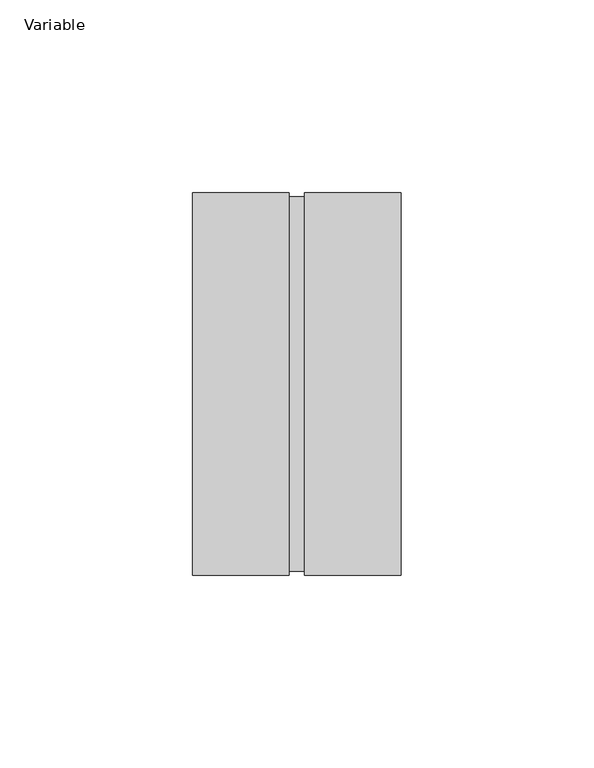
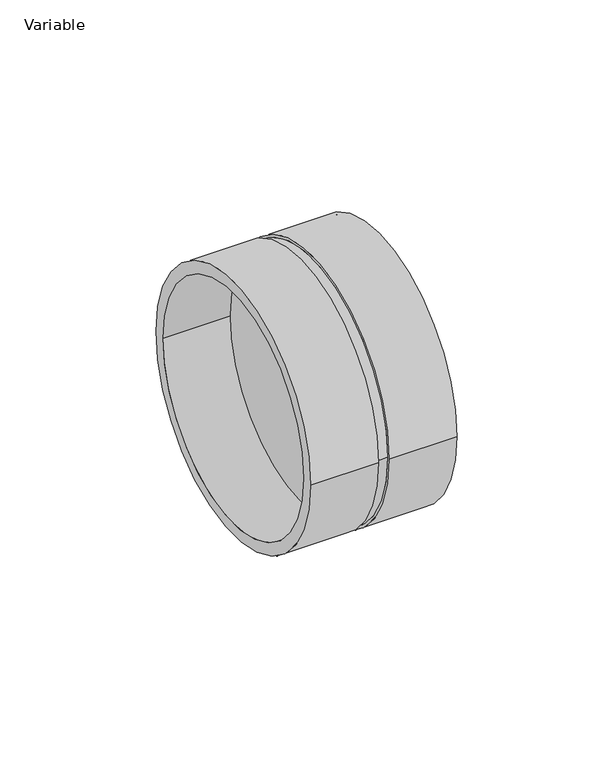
"""IFC4 building model written with IfcOpenShell, lengths in millimetres: pipe fitting geometry, AliaxisFR_Friaphon_RepairCoupling_FR : Variable."""

from ifc_helpers import new_model, si_unit, point, frame, origin, origin_2d, place, context, project, spatial, circle_curve, trimmed, segment, composite_curve, outline, extrude, source, transform, mapped, element, save


def variable_cb47ea54(model_context):
    return source(origin(), model_context, "Body", "SweptSolid", [
        extrude(outline(composite_curve([segment(trimmed(circle_curve(origin_2d(), 49.5), [point((-49.5, 0.0))], [point((49.5, 0.0))], False, "CARTESIAN"), True, "CONTINUOUS"), segment(trimmed(circle_curve(origin_2d(), 49.5), [point((49.5, 0.0))], [point((-49.5, 0.0))], False, "CARTESIAN"), True, "CONTINUOUS")], self_intersect=False), holes=[composite_curve([segment(trimmed(circle_curve(origin_2d(), 48.5), [point((-48.5, 0.0))], [point((48.5, 0.0))], True, "CARTESIAN"), True, "CONTINUOUS"), segment(trimmed(circle_curve(origin_2d(), 48.5), [point((48.5, 0.0))], [point((-48.5, 0.0))], True, "CARTESIAN"), True, "CONTINUOUS")], self_intersect=False)]), frame((29.0, 0.0, 0.0), z_axis=(1.0, 0.0, 0.0), x_axis=(0.0, 1.0, 0.0)), (0.0, 0.0, 1.0), 25.0),
        extrude(outline(composite_curve([segment(trimmed(circle_curve(origin_2d(), 48.5), [point((-48.5, 0.0))], [point((48.5, 0.0))], False, "CARTESIAN"), True, "CONTINUOUS"), segment(trimmed(circle_curve(origin_2d(), 48.5), [point((48.5, 0.0))], [point((-48.5, 0.0))], False, "CARTESIAN"), True, "CONTINUOUS")], self_intersect=False)), frame((25.0, 0.0, 0.0), z_axis=(1.0, 0.0, 0.0), x_axis=(0.0, 1.0, 0.0)), (0.0, 0.0, 1.0), 4.0),
        extrude(outline(composite_curve([segment(trimmed(circle_curve(origin_2d(), 49.5), [point((-49.5, 0.0))], [point((49.5, 0.0))], False, "CARTESIAN"), True, "CONTINUOUS"), segment(trimmed(circle_curve(origin_2d(), 49.5), [point((49.5, 0.0))], [point((-49.5, 0.0))], False, "CARTESIAN"), True, "CONTINUOUS")], self_intersect=False), holes=[composite_curve([segment(trimmed(circle_curve(origin_2d(), 45.0), [point((-45.0, 0.0))], [point((45.0, 0.0))], True, "CARTESIAN"), True, "CONTINUOUS"), segment(trimmed(circle_curve(origin_2d(), 45.0), [point((45.0, 0.0))], [point((-45.0, 0.0))], True, "CARTESIAN"), True, "CONTINUOUS")], self_intersect=False)]), frame((0.0, 0.0, 0.0), z_axis=(1.0, 0.0, 0.0), x_axis=(0.0, 1.0, 0.0)), (0.0, 0.0, 1.0), 25.0),
    ])


if __name__ == "__main__":
    model = new_model("IFC4")
    model_context = context("Model", 3, world=origin())
    ifc_project = project(units=[si_unit("LENGTHUNIT", "METRE", prefix="MILLI")], contexts=[model_context])
    site = spatial("IfcSite", under=ifc_project)
    building = spatial("IfcBuilding", under=site)
    placement = place(None, origin())
    variable_shape = variable_cb47ea54(model_context)
    element("IfcPipeFitting", 1, ObjectType="AliaxisFR_Friaphon_RepairCoupling_FR : Variable", at=placement, inside=building, context=model_context, shape_type="MappedRepresentation", body=[
        mapped(variable_shape, transform((0.0, 0.0, 0.0), x_axis=(1.0, 0.0, 0.0), y_axis=(0.0, 1.0, 0.0), z_axis=(0.0, 0.0, 1.0))),
    ])
    save(model, "model.ifc")
